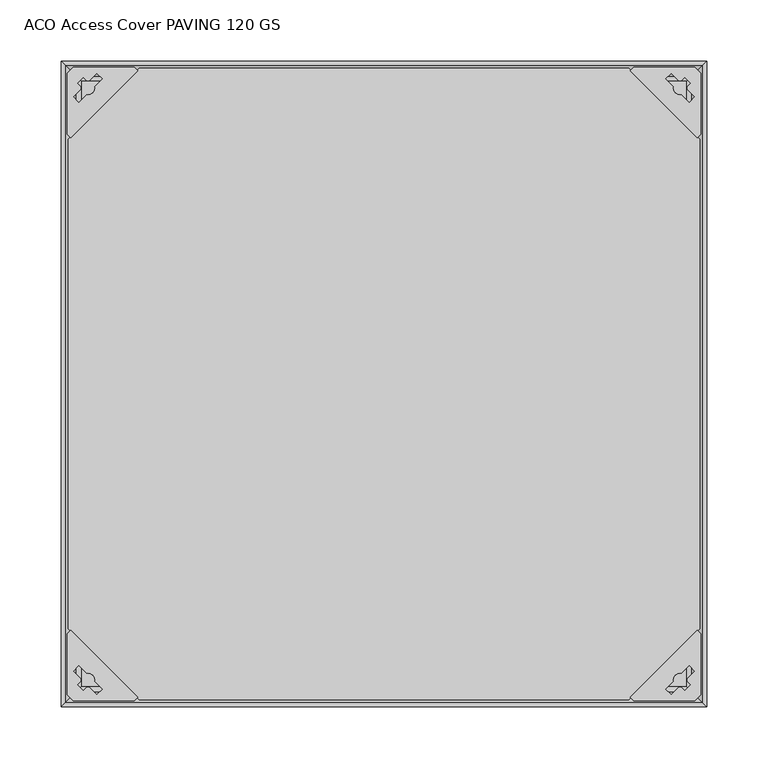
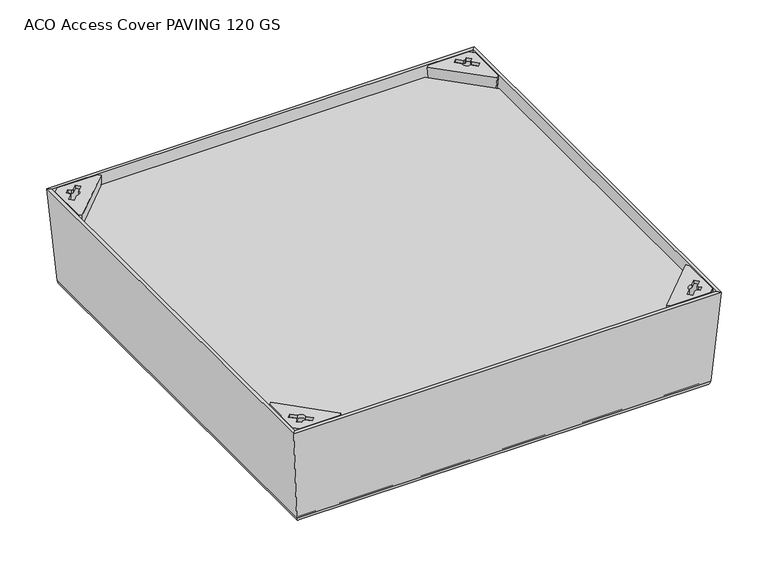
"""IFC4 building model written with IfcOpenShell, lengths in millimetres: proxy geometry, ACO Access Cover PAVING 120 GS : ACO Access Cover PAVING 120 400 x 400 C250 GS."""

from ifc_helpers import new_model, si_unit, frame, origin, place, context, project, spatial, polyline, circle_curve, ellipse_curve, source, transform, mapped, element, save
from ifc_brep_helpers import plane_surface, cylinder_surface, revolved_surface, advanced_brep


def aco_access_cover_paving_120_gs_7bec731e(model_context):
    return source(origin(), model_context, "Body", "AdvancedBrep", [
        advanced_brep(
        [(251.0478418, -207.9521582, -118.304766), (251.0478418, 207.9372685, -118.304766), (258.4201324, 200.5779653, -15.0), (258.4201324, -200.5798676, -15.0), (247.0575856, -211.9424144, -122.0257402), (247.0575856, 211.9204953, -122.0257402), (-207.9521582, -251.0478418, -118.304766), (207.9521582, -251.0478418, -118.304766), (200.5798676, -258.4201324, -15.0), (-200.5798676, -258.4201324, -15.0), (-211.9424144, -247.0575856, -122.0257402), (211.9424144, -247.0575856, -122.0257402), (-251.0478418, 207.9521494, -118.304766), (-251.0478418, -207.9521582, -118.304766), (-258.4201324, -200.5798676, -15.0), (-258.4201324, 200.5798587, -15.0), (-247.0575856, 211.9424056, -122.0257402), (-247.0575856, -211.9424144, -122.0257402), (-211.9424056, 247.0575856, -122.0257402), (211.8584869, 247.0575856, -122.0257402), (207.8611889, 251.0478418, -118.304766), (-207.9521494, 251.0478418, -118.304766), (-200.5798587, 258.4201324, -15.0), (200.4758879, 258.4201324, -15.0)],
        [
            (0, 1),
            (1, 2),
            (2, 3),
            (3, 0),
            (0, 4, ellipse_curve(frame((247.0575856, -211.9424144, -118.0257402), z_axis=(-0.7071067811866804, 0.7071067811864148, 0.0), x_axis=(0.7071067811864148, 0.7071067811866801, 0.0)), 5.6568542, 4.0)),
            (4, 5),
            (5, 1, ellipse_curve(frame((247.0575856, 211.9204953, -118.0257402), z_axis=(-0.7064831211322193, -0.707729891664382, 0.0), x_axis=(-0.707729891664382, 0.7064831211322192, 0.0)), 5.6518738, 4.0)),
            (6, 7),
            (7, 8),
            (8, 9),
            (9, 6),
            (6, 10, ellipse_curve(frame((-211.9424144, -247.0575856, -118.0257402), z_axis=(0.7071067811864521, 0.7071067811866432, 0.0), x_axis=(0.7071067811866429, -0.7071067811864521, 0.0)), 5.6568542, 4.0)),
            (10, 11),
            (11, 7, ellipse_curve(frame((211.9424144, -247.0575856, -118.0257402), z_axis=(-0.7071067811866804, 0.7071067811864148, 0.0), x_axis=(0.7071067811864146, 0.7071067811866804, 0.0)), 5.6568542, 4.0)),
            (12, 13),
            (13, 14),
            (14, 15),
            (15, 12),
            (12, 16, ellipse_curve(frame((-247.0575856, 211.9424056, -118.0257402), z_axis=(0.7071067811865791, -0.707106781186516, 0.0), x_axis=(-0.707106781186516, -0.7071067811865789, 0.0)), 5.6568542, 4.0)),
            (16, 17),
            (17, 13, ellipse_curve(frame((-247.0575856, -211.9424144, -118.0257402), z_axis=(0.7071067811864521, 0.7071067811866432, 0.0), x_axis=(0.7071067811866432, -0.7071067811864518, 0.0)), 5.6568542, 4.0)),
            (10, 17),
            (16, 18),
            (18, 19),
            (19, 5),
            (4, 11),
            (20, 21),
            (21, 22),
            (22, 23),
            (23, 20),
            (18, 21, ellipse_curve(frame((-211.9424056, 247.0575856, -118.0257402), z_axis=(0.7071067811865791, -0.707106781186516, 0.0), x_axis=(-0.7071067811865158, -0.7071067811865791, 0.0)), 5.6568542, 4.0)),
            (20, 19, ellipse_curve(frame((211.8584869, 247.0575856, -118.0257402), z_axis=(-0.7064831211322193, -0.707729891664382, 0.0), x_axis=(-0.7077298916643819, 0.7064831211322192, 0.0)), 5.6618479, 4.0)),
            (23, 2),
            (15, 22),
            (9, 14),
            (3, 8),
        ],
        [
            plane_surface(frame((259.4999911, 259.4999911, 0.1315999), z_axis=(0.9974632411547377, 0.0, -0.07118344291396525), x_axis=(0.0, -1.0, 0.0))),
            cylinder_surface(frame((247.0575856, 259.5, -118.0257402), z_axis=(0.0, 1.0, 0.0), x_axis=(1.0, 0.0, 0.0)), 4.0),
            plane_surface(frame((259.4999911, -259.4999911, 0.1315999), z_axis=(0.0, -0.997463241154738, -0.07118344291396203), x_axis=(-1.0, 0.0, 0.0))),
            cylinder_surface(frame((259.5, -247.0575856, -118.0257402), z_axis=(1.0, 0.0, 0.0), x_axis=(0.0, -1.0, 0.0)), 4.0),
            plane_surface(frame((-259.4999911, -259.4999911, 0.1315999), z_axis=(-0.9974632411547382, 0.0, -0.07118344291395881), x_axis=(0.0, 1.0, 0.0))),
            cylinder_surface(frame((-247.0575856, -259.5, -118.0257402), z_axis=(0.0, -1.0, 0.0), x_axis=(-1.0, 0.0, 0.0)), 4.0),
            plane_surface(frame((-247.0575856, 247.0575856, -122.0257402), z_axis=(0.0, 0.0, -1.0), x_axis=(1.0, 0.0, 0.0))),
            plane_surface(frame((-259.4999911, 259.4999911, 0.1315999), z_axis=(0.0, 0.997463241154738, -0.07118344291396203), x_axis=(1.0, 0.0, 0.0))),
            cylinder_surface(frame((-259.5, 247.0575856, -118.0257402), z_axis=(-1.0, 0.0, 0.0), x_axis=(0.0, 1.0, 0.0)), 4.0),
            plane_surface(frame((199.3941235, 259.4999911, 0.1315999), z_axis=(0.7064831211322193, 0.707729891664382, 0.0), x_axis=(0.0, 0.0, -1.0))),
            plane_surface(frame((-259.5, 199.4999911, 0.1315999), z_axis=(-0.7071067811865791, 0.707106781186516, 0.0), x_axis=(0.0, 0.0, -1.0))),
            plane_surface(frame((-199.5, -259.5, 0.1315999), z_axis=(-0.7071067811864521, -0.7071067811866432, 0.0), x_axis=(0.0, 0.0, -1.0))),
            plane_surface(frame((259.5, -199.5, 0.1315999), z_axis=(0.7071067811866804, -0.7071067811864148, 0.0), x_axis=(0.0, 0.0, -1.0))),
            plane_surface(frame((-469.5, 469.5, -15.0), z_axis=(0.0, 0.0, 1.0), x_axis=(1.0, 0.0, 0.0))),
        ],
        [
            (0, [[1, 2, 3, 4]]),
            (1, [[-1, 5, 6, 7]]),
            (2, [[8, 9, 10, 11]]),
            (3, [[-8, 12, 13, 14]]),
            (4, [[15, 16, 17, 18]]),
            (5, [[-15, 19, 20, 21]]),
            (6, [[-13, 22, -20, 23, 24, 25, -6, 26]]),
            (7, [[27, 28, 29, 30]]),
            (8, [[-24, 31, -27, 32]]),
            (9, [[-7, -25, -32, -30, 33, -2]]),
            (10, [[-19, -18, 34, -28, -31, -23]]),
            (11, [[-12, -11, 35, -16, -21, -22]]),
            (12, [[-5, -4, 36, -9, -14, -26]]),
            (13, [[-3, -33, -29, -34, -17, -35, -10, -36]]),
        ],
    ),
        advanced_brep(
        [(256.6741466, -201.6741466, -0.9943175), (201.6741466, -256.6741466, -0.9943175), (204.5, -259.5, -0.9943175), (254.5, -259.5, -0.9943175), (259.5, -254.5, -0.9943175), (259.5, -204.5, -0.9943175), (237.146772, -243.6283483, -0.9943175), (243.6283483, -237.146772, -0.9943175), (249.9654607, -230.8096596, -0.9943175), (254.2383518, -235.0825507, -0.9943175), (247.8694325, -241.45147, -0.9943175), (247.8534089, -243.6274897, -0.9943175), (250.6527499, -246.4268307, -0.9943175), (246.4203643, -250.6592163, -0.9943175), (243.6167976, -247.8556497, -0.9943175), (241.45147, -247.8694325, -0.9943175), (235.1697781, -254.1511244, -0.9943175), (230.896887, -249.8782333, -0.9943175), (216.2183936, -242.1298996, -120.9943175), (242.1298996, -216.2183936, -120.9943175), (244.955753, -219.044247, -120.9943175), (219.044247, -244.955753, -120.9943175), (250.3314062, -208.0168871, -109.3956357), (208.0168871, -250.3314062, -109.3956357), (204.9680932, -259.5, -4.9943175), (254.5, -259.5, -4.9943175), (259.5, -254.5, -4.9943175), (259.5, -204.9680932, -4.9943175), (237.146772, -243.6283483, -4.9943175), (243.6283483, -237.146772, -4.9943175), (249.9654607, -230.8096596, -4.9943175), (254.2383518, -235.0825507, -4.9943175), (247.8694325, -241.45147, -4.9943175), (247.8534089, -243.6274897, -4.9943175), (250.6527499, -246.4268307, -4.9943175), (246.4203643, -250.6592163, -4.9943175), (243.6167976, -247.8556497, -4.9943175), (241.45147, -247.8694325, -4.9943175), (235.1697781, -254.1511244, -4.9943175), (230.896887, -249.8782333, -4.9943175), (210.8427405, -253.1572595, -109.3956357), (204.7340466, -259.2659534, -4.9943175), (259.2659534, -204.7340466, -4.9943175), (253.1572595, -210.8427405, -109.3956357)],
        [
            (0, 1),
            (1, 2),
            (2, 3),
            (3, 4),
            (4, 5),
            (5, 0),
            (6, 7, circle_curve(frame((242.5, -242.5, -0.9943175), z_axis=(0.0, 0.0, -1.0), x_axis=(-1.0, 0.0, 0.0)), 5.4708519)),
            (7, 8),
            (8, 9),
            (9, 10),
            (10, 11, circle_curve(frame((242.5, -242.5, -0.9943175), z_axis=(0.0, 0.0, -1.0), x_axis=(-1.0, 0.0, 0.0)), 5.4708519)),
            (11, 12),
            (12, 13),
            (13, 14),
            (14, 15, circle_curve(frame((242.5, -242.5, -0.9943175), z_axis=(0.0, 0.0, -1.0), x_axis=(-1.0, 0.0, 0.0)), 5.4708519)),
            (15, 16),
            (16, 17),
            (17, 6),
            (18, 19),
            (19, 20),
            (20, 21),
            (21, 18),
            (0, 22),
            (22, 19),
            (18, 23),
            (23, 1),
            (2, 24),
            (24, 25),
            (25, 3),
            (25, 26),
            (26, 4),
            (26, 27),
            (27, 5),
            (6, 28),
            (28, 29, circle_curve(frame((242.5, -242.5, -4.9943175), z_axis=(0.0, 0.0, -1.0), x_axis=(-1.0, 0.0, 0.0)), 5.4708519)),
            (29, 7),
            (29, 30),
            (30, 8),
            (30, 31),
            (31, 9),
            (31, 32),
            (32, 10),
            (32, 33, circle_curve(frame((242.5, -242.5, -4.9943175), z_axis=(0.0, 0.0, -1.0), x_axis=(-1.0, 0.0, 0.0)), 5.4708519)),
            (33, 11),
            (33, 34),
            (34, 12),
            (34, 35),
            (35, 13),
            (35, 36),
            (36, 14),
            (36, 37, circle_curve(frame((242.5, -242.5, -4.9943175), z_axis=(0.0, 0.0, -1.0), x_axis=(-1.0, 0.0, 0.0)), 5.4708519)),
            (37, 15),
            (37, 38),
            (38, 16),
            (38, 39),
            (39, 17),
            (39, 28),
            (23, 40),
            (40, 41),
            (41, 24),
            (21, 40),
            (41, 42),
            (42, 27),
            (20, 43),
            (43, 42),
            (22, 43),
        ],
        [
            plane_surface(frame((259.5, -204.5, -0.9943175), z_axis=(0.0, 0.0, 1.0000000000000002), x_axis=(-0.7071067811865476, 0.7071067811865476, 0.0))),
            plane_surface(frame((259.5, -204.5, -120.9943175), z_axis=(0.0, 0.0, -1.0000000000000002), x_axis=(0.7071067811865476, -0.7071067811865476, 0.0))),
            plane_surface(frame((256.6741466, -201.6741466, -0.9943175), z_axis=(-0.7071067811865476, 0.7071067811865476, 0.0), x_axis=(0.0, 0.0, -1.0))),
            plane_surface(frame((204.5, -259.5, -0.9943175), z_axis=(0.0, -1.0, 0.0), x_axis=(0.0, 0.0, -1.0))),
            plane_surface(frame((254.5, -259.5, -0.9943175), z_axis=(0.7071067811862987, -0.7071067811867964, 0.0), x_axis=(0.0, 0.0, -1.0))),
            plane_surface(frame((259.5, -254.5, -0.9943175), z_axis=(1.0, 0.0, 0.0), x_axis=(0.0, 0.0, -1.0))),
            revolved_surface(polyline([(237.0291481, -242.5, -4.9943175), (237.0291481, -242.5, -0.9943175)]), (242.5, -242.5, 1.0056825), (0.0, 0.0, -1.0)),
            plane_surface(frame((243.6283483, -237.146772, -0.9943175), z_axis=(0.7071067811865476, -0.7071067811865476, 0.0), x_axis=(0.0, 0.0, -1.0))),
            plane_surface(frame((249.9654607, -230.8096596, -0.9943175), z_axis=(-0.7071067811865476, -0.7071067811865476, 0.0), x_axis=(0.0, 0.0, -1.0))),
            plane_surface(frame((254.2383518, -235.0825507, -0.9943175), z_axis=(-0.7071067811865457, 0.7071067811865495, 0.0), x_axis=(0.0, 0.0, -1.0))),
            plane_surface(frame((247.8534089, -243.6274897, -0.9943175), z_axis=(-0.7071067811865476, -0.7071067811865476, 0.0), x_axis=(0.0, 0.0, -1.0))),
            plane_surface(frame((250.6527499, -246.4268307, -0.9943175), z_axis=(-0.7071067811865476, 0.7071067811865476, 0.0), x_axis=(0.0, 0.0, -1.0))),
            plane_surface(frame((246.4203643, -250.6592163, -0.9943175), z_axis=(0.7071067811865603, 0.7071067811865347, 0.0), x_axis=(0.0, 0.0, -1.0))),
            plane_surface(frame((241.45147, -247.8694325, -0.9943175), z_axis=(-0.7071067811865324, 0.7071067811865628, 0.0), x_axis=(0.0, 0.0, -1.0))),
            plane_surface(frame((235.1697781, -254.1511244, -0.9943175), z_axis=(0.7071067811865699, 0.7071067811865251, 0.0), x_axis=(0.0, 0.0, -1.0))),
            plane_surface(frame((230.896887, -249.8782333, -0.9943175), z_axis=(0.7071067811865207, -0.7071067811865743, 0.0), x_axis=(0.0, 0.0, -1.0))),
            plane_surface(frame((235.8427405, -278.1572595, -109.3956357), z_axis=(-0.7046982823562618, -0.7046982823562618, -0.08246612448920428), x_axis=(-0.7071067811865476, 0.7071067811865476, 0.0))),
            plane_surface(frame((244.044247, -269.955753, -120.9943175), z_axis=(-0.5000000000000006, -0.5000000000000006, -0.707106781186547), x_axis=(-0.7071067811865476, 0.7071067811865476, 0.0))),
            plane_surface(frame((266.1329796, -264.5, -4.9943175), z_axis=(0.0, 0.0, -1.0), x_axis=(0.0, 1.0, 0.0))),
            plane_surface(frame((266.1329796, -197.8670204, -4.9943175), z_axis=(0.7071067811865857, -0.7071067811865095, 0.0), x_axis=(0.0, 0.0, -1.0))),
            plane_surface(frame((278.1572595, -235.8427405, -109.3956357), z_axis=(0.5000000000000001, 0.5000000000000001, -0.7071067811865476), x_axis=(-0.7071067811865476, 0.7071067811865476, 0.0))),
            plane_surface(frame((284.5, -229.5, -0.9943175), z_axis=(0.7046982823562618, 0.7046982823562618, -0.08246612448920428), x_axis=(-0.7071067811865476, 0.7071067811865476, 0.0))),
        ],
        [
            (0, [[1, 2, 3, 4, 5, 6], [7, 8, 9, 10, 11, 12, 13, 14, 15, 16, 17, 18]]),
            (1, [[19, 20, 21, 22]]),
            (2, [[-1, 23, 24, -19, 25, 26]]),
            (3, [[-3, 27, 28, 29]]),
            (4, [[-4, -29, 30, 31]]),
            (5, [[-5, -31, 32, 33]]),
            (6, [[-7, 34, 35, 36]]),
            (7, [[-8, -36, 37, 38]]),
            (8, [[-9, -38, 39, 40]]),
            (9, [[-10, -40, 41, 42]]),
            (6, [[-11, -42, 43, 44]]),
            (10, [[-12, -44, 45, 46]]),
            (11, [[-13, -46, 47, 48]]),
            (12, [[-14, -48, 49, 50]]),
            (6, [[-15, -50, 51, 52]]),
            (13, [[-16, -52, 53, 54]]),
            (14, [[-17, -54, 55, 56]]),
            (15, [[-18, -56, 57, -34]]),
            (16, [[-2, -26, 58, 59, 60, -27]]),
            (17, [[-25, -22, 61, -58]]),
            (18, [[62, 63, -32, -30, -28, -60], [-35, -57, -55, -53, -51, -49, -47, -45, -43, -41, -39, -37]]),
            (19, [[-62, -59, -61, -21, 64, 65]]),
            (20, [[-24, 66, -64, -20]]),
            (21, [[-6, -33, -63, -65, -66, -23]]),
        ],
    ),
        advanced_brep(
        [(-256.6741466, -201.6741466, -0.9992003), (-259.5, -204.5, -0.9992003), (-259.5, -254.5, -0.9992003), (-254.5, -259.5, -0.9992003), (-204.5, -259.5, -0.9992003), (-201.6741466, -256.6741466, -0.9992003), (-237.146772, -243.6283483, -0.9992003), (-230.896887, -249.8782333, -0.9992003), (-235.1697781, -254.1511244, -0.9992003), (-241.45147, -247.8694325, -0.9992003), (-243.6167976, -247.8556497, -0.9992003), (-246.4203643, -250.6592163, -0.9992003), (-250.6527499, -246.4268307, -0.9992003), (-247.8534089, -243.6274897, -0.9992003), (-247.8694325, -241.45147, -0.9992003), (-254.2383518, -235.0825507, -0.9992003), (-249.9654607, -230.8096596, -0.9992003), (-243.6283483, -237.146772, -0.9992003), (-216.2183936, -242.1298996, -120.9992003), (-219.044247, -244.955753, -120.9992003), (-244.955753, -219.044247, -120.9992003), (-242.1298996, -216.2183936, -120.9992003), (-208.0168871, -250.3314062, -109.4005185), (-250.3314062, -208.0168871, -109.4005185), (-254.5, -259.5, -4.9992003), (-204.9680932, -259.5, -4.9992003), (-259.5, -254.5, -4.9992003), (-259.5, -204.9680932, -4.9992003), (-243.6283483, -237.146772, -4.9992003), (-237.146772, -243.6283483, -4.9992003), (-249.9654607, -230.8096596, -4.9992003), (-254.2383518, -235.0825507, -4.9992003), (-247.8694325, -241.45147, -4.9992003), (-247.8534089, -243.6274897, -4.9992003), (-250.6527499, -246.4268307, -4.9992003), (-246.4203643, -250.6592163, -4.9992003), (-243.6167976, -247.8556497, -4.9992003), (-241.45147, -247.8694325, -4.9992003), (-235.1697781, -254.1511244, -4.9992003), (-230.896887, -249.8782333, -4.9992003), (-204.7340466, -259.2659534, -4.9992003), (-210.8427405, -253.1572595, -109.4005185), (-259.2659534, -204.7340466, -4.9992003), (-253.1572595, -210.8427405, -109.4005185)],
        [
            (0, 1),
            (1, 2),
            (2, 3),
            (3, 4),
            (4, 5),
            (5, 0),
            (6, 7),
            (7, 8),
            (8, 9),
            (9, 10, circle_curve(frame((-242.5, -242.5, -0.9992003), z_axis=(0.0, 0.0, -1.0), x_axis=(1.0, 0.0, 0.0)), 5.4708519)),
            (10, 11),
            (11, 12),
            (12, 13),
            (13, 14, circle_curve(frame((-242.5, -242.5, -0.9992003), z_axis=(0.0, 0.0, -1.0), x_axis=(1.0, 0.0, 0.0)), 5.4708519)),
            (14, 15),
            (15, 16),
            (16, 17),
            (17, 6, circle_curve(frame((-242.5, -242.5, -0.9992003), z_axis=(0.0, 0.0, -1.0), x_axis=(1.0, 0.0, 0.0)), 5.4708519)),
            (18, 19),
            (19, 20),
            (20, 21),
            (21, 18),
            (5, 22),
            (22, 18),
            (21, 23),
            (23, 0),
            (3, 24),
            (24, 25),
            (25, 4),
            (2, 26),
            (26, 24),
            (1, 27),
            (27, 26),
            (17, 28),
            (28, 29, circle_curve(frame((-242.5, -242.5, -4.9992003), z_axis=(0.0, 0.0, -1.0), x_axis=(1.0, 0.0, 0.0)), 5.4708519)),
            (29, 6),
            (16, 30),
            (30, 28),
            (15, 31),
            (31, 30),
            (14, 32),
            (32, 31),
            (13, 33),
            (33, 32, circle_curve(frame((-242.5, -242.5, -4.9992003), z_axis=(0.0, 0.0, -1.0), x_axis=(1.0, 0.0, 0.0)), 5.4708519)),
            (12, 34),
            (34, 33),
            (11, 35),
            (35, 34),
            (10, 36),
            (36, 35),
            (9, 37),
            (37, 36, circle_curve(frame((-242.5, -242.5, -4.9992003), z_axis=(0.0, 0.0, -1.0), x_axis=(1.0, 0.0, 0.0)), 5.4708519)),
            (8, 38),
            (38, 37),
            (7, 39),
            (39, 38),
            (29, 39),
            (25, 40),
            (40, 41),
            (41, 22),
            (41, 19),
            (27, 42),
            (42, 40),
            (42, 43),
            (43, 20),
            (43, 23),
        ],
        [
            plane_surface(frame((-259.5, -204.5, -0.9992003), z_axis=(0.0, 0.0, 1.0000000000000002), x_axis=(0.7071067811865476, 0.7071067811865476, 0.0))),
            plane_surface(frame((-259.5, -204.5, -120.9992003), z_axis=(0.0, 0.0, -1.0000000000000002), x_axis=(-0.7071067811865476, -0.7071067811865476, 0.0))),
            plane_surface(frame((-256.6741466, -201.6741466, -0.9992003), z_axis=(0.7071067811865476, 0.7071067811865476, 0.0), x_axis=(0.0, 0.0, -1.0))),
            plane_surface(frame((-204.5, -259.5, -0.9992003), z_axis=(0.0, -1.0, 0.0), x_axis=(0.0, 0.0, -1.0))),
            plane_surface(frame((-254.5, -259.5, -0.9992003), z_axis=(-0.7071067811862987, -0.7071067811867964, 0.0), x_axis=(0.0, 0.0, -1.0))),
            plane_surface(frame((-259.5, -254.5, -0.9992003), z_axis=(-1.0, 0.0, 0.0), x_axis=(0.0, 0.0, -1.0))),
            revolved_surface(polyline([(-237.0291481, -242.5, -4.9992003), (-237.0291481, -242.5, -0.9992003)]), (-242.5, -242.5, 1.0007997), (0.0, 0.0, -1.0)),
            plane_surface(frame((-243.6283483, -237.146772, -0.9992003), z_axis=(-0.7071067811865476, -0.7071067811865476, 0.0), x_axis=(0.0, 0.0, -1.0))),
            plane_surface(frame((-249.9654607, -230.8096596, -0.9992003), z_axis=(0.7071067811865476, -0.7071067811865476, 0.0), x_axis=(0.0, 0.0, -1.0))),
            plane_surface(frame((-254.2383518, -235.0825507, -0.9992003), z_axis=(0.7071067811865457, 0.7071067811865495, 0.0), x_axis=(0.0, 0.0, -1.0))),
            plane_surface(frame((-247.8534089, -243.6274897, -0.9992003), z_axis=(0.7071067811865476, -0.7071067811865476, 0.0), x_axis=(0.0, 0.0, -1.0))),
            plane_surface(frame((-250.6527499, -246.4268307, -0.9992003), z_axis=(0.7071067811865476, 0.7071067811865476, 0.0), x_axis=(0.0, 0.0, -1.0))),
            plane_surface(frame((-246.4203643, -250.6592163, -0.9992003), z_axis=(-0.7071067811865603, 0.7071067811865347, 0.0), x_axis=(0.0, 0.0, -1.0))),
            plane_surface(frame((-241.45147, -247.8694325, -0.9992003), z_axis=(0.7071067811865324, 0.7071067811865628, 0.0), x_axis=(0.0, 0.0, -1.0))),
            plane_surface(frame((-235.1697781, -254.1511244, -0.9992003), z_axis=(-0.7071067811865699, 0.7071067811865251, 0.0), x_axis=(0.0, 0.0, -1.0))),
            plane_surface(frame((-230.896887, -249.8782333, -0.9992003), z_axis=(-0.7071067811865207, -0.7071067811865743, 0.0), x_axis=(0.0, 0.0, -1.0))),
            plane_surface(frame((-235.8427405, -278.1572595, -109.4005185), z_axis=(0.7046982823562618, -0.7046982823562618, -0.08246612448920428), x_axis=(0.7071067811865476, 0.7071067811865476, 0.0))),
            plane_surface(frame((-244.044247, -269.955753, -120.9992003), z_axis=(0.5000000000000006, -0.5000000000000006, -0.707106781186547), x_axis=(0.7071067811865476, 0.7071067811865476, 0.0))),
            plane_surface(frame((-266.1329796, -264.5, -4.9992003), z_axis=(0.0, 0.0, -1.0), x_axis=(0.0, 1.0, 0.0))),
            plane_surface(frame((-266.1329796, -197.8670204, -4.9992003), z_axis=(-0.7071067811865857, -0.7071067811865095, 0.0), x_axis=(0.0, 0.0, -1.0))),
            plane_surface(frame((-278.1572595, -235.8427405, -109.4005185), z_axis=(-0.5000000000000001, 0.5000000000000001, -0.7071067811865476), x_axis=(0.7071067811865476, 0.7071067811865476, 0.0))),
            plane_surface(frame((-284.5, -229.5, -0.9992003), z_axis=(-0.7046982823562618, 0.7046982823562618, -0.08246612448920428), x_axis=(0.7071067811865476, 0.7071067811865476, 0.0))),
        ],
        [
            (0, [[1, 2, 3, 4, 5, 6], [7, 8, 9, 10, 11, 12, 13, 14, 15, 16, 17, 18]]),
            (1, [[19, 20, 21, 22]]),
            (2, [[23, 24, -22, 25, 26, -6]]),
            (3, [[27, 28, 29, -4]]),
            (4, [[30, 31, -27, -3]]),
            (5, [[32, 33, -30, -2]]),
            (6, [[34, 35, 36, -18]]),
            (7, [[37, 38, -34, -17]]),
            (8, [[39, 40, -37, -16]]),
            (9, [[41, 42, -39, -15]]),
            (6, [[43, 44, -41, -14]]),
            (10, [[45, 46, -43, -13]]),
            (11, [[47, 48, -45, -12]]),
            (12, [[49, 50, -47, -11]]),
            (6, [[51, 52, -49, -10]]),
            (13, [[53, 54, -51, -9]]),
            (14, [[55, 56, -53, -8]]),
            (15, [[-36, 57, -55, -7]]),
            (16, [[-29, 58, 59, 60, -23, -5]]),
            (17, [[-60, 61, -19, -24]]),
            (18, [[-58, -28, -31, -33, 62, 63], [-38, -40, -42, -44, -46, -48, -50, -52, -54, -56, -57, -35]]),
            (19, [[64, 65, -20, -61, -59, -63]]),
            (20, [[-21, -65, 66, -25]]),
            (21, [[-26, -66, -64, -62, -32, -1]]),
        ],
    ),
        advanced_brep(
        [(256.6741466, 201.6741466, -0.9992003), (259.5, 204.5, -0.9992003), (259.5, 254.5, -0.9992003), (254.5, 259.5, -0.9992003), (204.5, 259.5, -0.9992003), (201.6741466, 256.6741466, -0.9992003), (237.146772, 243.6283483, -0.9992003), (230.896887, 249.8782333, -0.9992003), (235.1697781, 254.1511244, -0.9992003), (241.45147, 247.8694325, -0.9992003), (243.6167976, 247.8556497, -0.9992003), (246.4203643, 250.6592163, -0.9992003), (250.6527499, 246.4268307, -0.9992003), (247.8534089, 243.6274897, -0.9992003), (247.8694325, 241.45147, -0.9992003), (254.2383518, 235.0825507, -0.9992003), (249.9654607, 230.8096596, -0.9992003), (243.6283483, 237.146772, -0.9992003), (216.2183936, 242.1298996, -120.9992003), (219.044247, 244.955753, -120.9992003), (244.955753, 219.044247, -120.9992003), (242.1298996, 216.2183936, -120.9992003), (208.0168871, 250.3314062, -109.4005185), (250.3314062, 208.0168871, -109.4005185), (254.5, 259.5, -4.9992003), (204.9680932, 259.5, -4.9992003), (259.5, 254.5, -4.9992003), (259.5, 204.9680932, -4.9992003), (243.6283483, 237.146772, -4.9992003), (237.146772, 243.6283483, -4.9992003), (249.9654607, 230.8096596, -4.9992003), (254.2383518, 235.0825507, -4.9992003), (247.8694325, 241.45147, -4.9992003), (247.8534089, 243.6274897, -4.9992003), (250.6527499, 246.4268307, -4.9992003), (246.4203643, 250.6592163, -4.9992003), (243.6167976, 247.8556497, -4.9992003), (241.45147, 247.8694325, -4.9992003), (235.1697781, 254.1511244, -4.9992003), (230.896887, 249.8782333, -4.9992003), (204.7340466, 259.2659534, -4.9992003), (210.8427405, 253.1572595, -109.4005185), (259.2659534, 204.7340466, -4.9992003), (253.1572595, 210.8427405, -109.4005185)],
        [
            (0, 1),
            (1, 2),
            (2, 3),
            (3, 4),
            (4, 5),
            (5, 0),
            (6, 7),
            (7, 8),
            (8, 9),
            (9, 10, circle_curve(frame((242.5, 242.5, -0.9992003), z_axis=(0.0, 0.0, -1.0), x_axis=(-1.0, 0.0, 0.0)), 5.4708519)),
            (10, 11),
            (11, 12),
            (12, 13),
            (13, 14, circle_curve(frame((242.5, 242.5, -0.9992003), z_axis=(0.0, 0.0, -1.0), x_axis=(-1.0, 0.0, 0.0)), 5.4708519)),
            (14, 15),
            (15, 16),
            (16, 17),
            (17, 6, circle_curve(frame((242.5, 242.5, -0.9992003), z_axis=(0.0, 0.0, -1.0), x_axis=(-1.0, 0.0, 0.0)), 5.4708519)),
            (18, 19),
            (19, 20),
            (20, 21),
            (21, 18),
            (5, 22),
            (22, 18),
            (21, 23),
            (23, 0),
            (3, 24),
            (24, 25),
            (25, 4),
            (2, 26),
            (26, 24),
            (1, 27),
            (27, 26),
            (17, 28),
            (28, 29, circle_curve(frame((242.5, 242.5, -4.9992003), z_axis=(0.0, 0.0, -1.0), x_axis=(-1.0, 0.0, 0.0)), 5.4708519)),
            (29, 6),
            (16, 30),
            (30, 28),
            (15, 31),
            (31, 30),
            (14, 32),
            (32, 31),
            (13, 33),
            (33, 32, circle_curve(frame((242.5, 242.5, -4.9992003), z_axis=(0.0, 0.0, -1.0), x_axis=(-1.0, 0.0, 0.0)), 5.4708519)),
            (12, 34),
            (34, 33),
            (11, 35),
            (35, 34),
            (10, 36),
            (36, 35),
            (9, 37),
            (37, 36, circle_curve(frame((242.5, 242.5, -4.9992003), z_axis=(0.0, 0.0, -1.0), x_axis=(-1.0, 0.0, 0.0)), 5.4708519)),
            (8, 38),
            (38, 37),
            (7, 39),
            (39, 38),
            (29, 39),
            (25, 40),
            (40, 41),
            (41, 22),
            (41, 19),
            (27, 42),
            (42, 40),
            (42, 43),
            (43, 20),
            (43, 23),
        ],
        [
            plane_surface(frame((259.5, 204.5, -0.9992003), z_axis=(0.0, 0.0, 1.0000000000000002), x_axis=(-0.7071067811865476, -0.7071067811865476, 0.0))),
            plane_surface(frame((259.5, 204.5, -120.9992003), z_axis=(0.0, 0.0, -1.0000000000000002), x_axis=(0.7071067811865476, 0.7071067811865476, 0.0))),
            plane_surface(frame((256.6741466, 201.6741466, -0.9992003), z_axis=(-0.7071067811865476, -0.7071067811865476, 0.0), x_axis=(0.0, 0.0, -1.0))),
            plane_surface(frame((204.5, 259.5, -0.9992003), z_axis=(0.0, 1.0, 0.0), x_axis=(0.0, 0.0, -1.0))),
            plane_surface(frame((254.5, 259.5, -0.9992003), z_axis=(0.7071067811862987, 0.7071067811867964, 0.0), x_axis=(0.0, 0.0, -1.0))),
            plane_surface(frame((259.5, 254.5, -0.9992003), z_axis=(1.0, 0.0, 0.0), x_axis=(0.0, 0.0, -1.0))),
            revolved_surface(polyline([(237.0291481, 242.5, -4.9992003), (237.0291481, 242.5, -0.9992003)]), (242.5, 242.5, 1.0007997), (0.0, 0.0, -1.0)),
            plane_surface(frame((243.6283483, 237.146772, -0.9992003), z_axis=(0.7071067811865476, 0.7071067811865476, 0.0), x_axis=(0.0, 0.0, -1.0))),
            plane_surface(frame((249.9654607, 230.8096596, -0.9992003), z_axis=(-0.7071067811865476, 0.7071067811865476, 0.0), x_axis=(0.0, 0.0, -1.0))),
            plane_surface(frame((254.2383518, 235.0825507, -0.9992003), z_axis=(-0.7071067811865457, -0.7071067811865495, 0.0), x_axis=(0.0, 0.0, -1.0))),
            plane_surface(frame((247.8534089, 243.6274897, -0.9992003), z_axis=(-0.7071067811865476, 0.7071067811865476, 0.0), x_axis=(0.0, 0.0, -1.0))),
            plane_surface(frame((250.6527499, 246.4268307, -0.9992003), z_axis=(-0.7071067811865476, -0.7071067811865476, 0.0), x_axis=(0.0, 0.0, -1.0))),
            plane_surface(frame((246.4203643, 250.6592163, -0.9992003), z_axis=(0.7071067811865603, -0.7071067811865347, 0.0), x_axis=(0.0, 0.0, -1.0))),
            plane_surface(frame((241.45147, 247.8694325, -0.9992003), z_axis=(-0.7071067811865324, -0.7071067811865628, 0.0), x_axis=(0.0, 0.0, -1.0))),
            plane_surface(frame((235.1697781, 254.1511244, -0.9992003), z_axis=(0.7071067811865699, -0.7071067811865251, 0.0), x_axis=(0.0, 0.0, -1.0))),
            plane_surface(frame((230.896887, 249.8782333, -0.9992003), z_axis=(0.7071067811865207, 0.7071067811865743, 0.0), x_axis=(0.0, 0.0, -1.0))),
            plane_surface(frame((235.8427405, 278.1572595, -109.4005185), z_axis=(-0.7046982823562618, 0.7046982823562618, -0.08246612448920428), x_axis=(-0.7071067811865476, -0.7071067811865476, 0.0))),
            plane_surface(frame((244.044247, 269.955753, -120.9992003), z_axis=(-0.5000000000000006, 0.5000000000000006, -0.707106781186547), x_axis=(-0.7071067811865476, -0.7071067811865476, 0.0))),
            plane_surface(frame((266.1329796, 264.5, -4.9992003), z_axis=(0.0, 0.0, -1.0), x_axis=(0.0, -1.0, 0.0))),
            plane_surface(frame((266.1329796, 197.8670204, -4.9992003), z_axis=(0.7071067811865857, 0.7071067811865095, 0.0), x_axis=(0.0, 0.0, -1.0))),
            plane_surface(frame((278.1572595, 235.8427405, -109.4005185), z_axis=(0.5000000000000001, -0.5000000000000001, -0.7071067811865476), x_axis=(-0.7071067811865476, -0.7071067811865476, 0.0))),
            plane_surface(frame((284.5, 229.5, -0.9992003), z_axis=(0.7046982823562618, -0.7046982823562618, -0.08246612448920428), x_axis=(-0.7071067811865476, -0.7071067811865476, 0.0))),
        ],
        [
            (0, [[1, 2, 3, 4, 5, 6], [7, 8, 9, 10, 11, 12, 13, 14, 15, 16, 17, 18]]),
            (1, [[19, 20, 21, 22]]),
            (2, [[23, 24, -22, 25, 26, -6]]),
            (3, [[27, 28, 29, -4]]),
            (4, [[30, 31, -27, -3]]),
            (5, [[32, 33, -30, -2]]),
            (6, [[34, 35, 36, -18]]),
            (7, [[37, 38, -34, -17]]),
            (8, [[39, 40, -37, -16]]),
            (9, [[41, 42, -39, -15]]),
            (6, [[43, 44, -41, -14]]),
            (10, [[45, 46, -43, -13]]),
            (11, [[47, 48, -45, -12]]),
            (12, [[49, 50, -47, -11]]),
            (6, [[51, 52, -49, -10]]),
            (13, [[53, 54, -51, -9]]),
            (14, [[55, 56, -53, -8]]),
            (15, [[-36, 57, -55, -7]]),
            (16, [[-29, 58, 59, 60, -23, -5]]),
            (17, [[-60, 61, -19, -24]]),
            (18, [[-58, -28, -31, -33, 62, 63], [-38, -40, -42, -44, -46, -48, -50, -52, -54, -56, -57, -35]]),
            (19, [[64, 65, -20, -61, -59, -63]]),
            (20, [[-21, -65, 66, -25]]),
            (21, [[-26, -66, -64, -62, -32, -1]]),
        ],
    ),
        advanced_brep(
        [(-256.6741466, 201.6741466, -0.9998106), (-201.6741466, 256.6741466, -0.9998106), (-204.5, 259.5, -0.9998106), (-254.5, 259.5, -0.9998106), (-259.5, 254.5, -0.9998106), (-259.5, 204.5, -0.9998106), (-237.146772, 243.6283483, -0.9998106), (-243.6283483, 237.146772, -0.9998106), (-249.9654607, 230.8096596, -0.9998106), (-254.2383518, 235.0825507, -0.9998106), (-247.8694325, 241.45147, -0.9998106), (-247.8534089, 243.6274897, -0.9998106), (-250.6527499, 246.4268307, -0.9998106), (-246.4203643, 250.6592163, -0.9998106), (-243.6167976, 247.8556497, -0.9998106), (-241.45147, 247.8694325, -0.9998106), (-235.1697781, 254.1511244, -0.9998106), (-230.896887, 249.8782333, -0.9998106), (-216.2183936, 242.1298996, -120.9998106), (-242.1298996, 216.2183936, -120.9998106), (-244.955753, 219.044247, -120.9998106), (-219.044247, 244.955753, -120.9998106), (-250.3314062, 208.0168871, -109.4011289), (-208.0168871, 250.3314062, -109.4011289), (-204.9680932, 259.5, -4.9998106), (-254.5, 259.5, -4.9998106), (-259.5, 254.5, -4.9998106), (-259.5, 204.9680932, -4.9998106), (-237.146772, 243.6283483, -4.9998106), (-243.6283483, 237.146772, -4.9998106), (-249.9654607, 230.8096596, -4.9998106), (-254.2383518, 235.0825507, -4.9998106), (-247.8694325, 241.45147, -4.9998106), (-247.8534089, 243.6274897, -4.9998106), (-250.6527499, 246.4268307, -4.9998106), (-246.4203643, 250.6592163, -4.9998106), (-243.6167976, 247.8556497, -4.9998106), (-241.45147, 247.8694325, -4.9998106), (-235.1697781, 254.1511244, -4.9998106), (-230.896887, 249.8782333, -4.9998106), (-210.8427405, 253.1572595, -109.4011289), (-204.7340466, 259.2659534, -4.9998106), (-259.2659534, 204.7340466, -4.9998106), (-253.1572595, 210.8427405, -109.4011289)],
        [
            (0, 1),
            (1, 2),
            (2, 3),
            (3, 4),
            (4, 5),
            (5, 0),
            (6, 7, circle_curve(frame((-242.5, 242.5, -0.9998106), z_axis=(0.0, 0.0, -1.0), x_axis=(1.0, 0.0, 0.0)), 5.4708519)),
            (7, 8),
            (8, 9),
            (9, 10),
            (10, 11, circle_curve(frame((-242.5, 242.5, -0.9998106), z_axis=(0.0, 0.0, -1.0), x_axis=(1.0, 0.0, 0.0)), 5.4708519)),
            (11, 12),
            (12, 13),
            (13, 14),
            (14, 15, circle_curve(frame((-242.5, 242.5, -0.9998106), z_axis=(0.0, 0.0, -1.0), x_axis=(1.0, 0.0, 0.0)), 5.4708519)),
            (15, 16),
            (16, 17),
            (17, 6),
            (18, 19),
            (19, 20),
            (20, 21),
            (21, 18),
            (0, 22),
            (22, 19),
            (18, 23),
            (23, 1),
            (2, 24),
            (24, 25),
            (25, 3),
            (25, 26),
            (26, 4),
            (26, 27),
            (27, 5),
            (6, 28),
            (28, 29, circle_curve(frame((-242.5, 242.5, -4.9998106), z_axis=(0.0, 0.0, -1.0), x_axis=(1.0, 0.0, 0.0)), 5.4708519)),
            (29, 7),
            (29, 30),
            (30, 8),
            (30, 31),
            (31, 9),
            (31, 32),
            (32, 10),
            (32, 33, circle_curve(frame((-242.5, 242.5, -4.9998106), z_axis=(0.0, 0.0, -1.0), x_axis=(1.0, 0.0, 0.0)), 5.4708519)),
            (33, 11),
            (33, 34),
            (34, 12),
            (34, 35),
            (35, 13),
            (35, 36),
            (36, 14),
            (36, 37, circle_curve(frame((-242.5, 242.5, -4.9998106), z_axis=(0.0, 0.0, -1.0), x_axis=(1.0, 0.0, 0.0)), 5.4708519)),
            (37, 15),
            (37, 38),
            (38, 16),
            (38, 39),
            (39, 17),
            (39, 28),
            (23, 40),
            (40, 41),
            (41, 24),
            (21, 40),
            (41, 42),
            (42, 27),
            (20, 43),
            (43, 42),
            (22, 43),
        ],
        [
            plane_surface(frame((-259.5, 204.5, -0.9998106), z_axis=(0.0, 0.0, 1.0000000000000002), x_axis=(0.7071067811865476, -0.7071067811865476, 0.0))),
            plane_surface(frame((-259.5, 204.5, -120.9998106), z_axis=(0.0, 0.0, -1.0000000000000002), x_axis=(-0.7071067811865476, 0.7071067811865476, 0.0))),
            plane_surface(frame((-256.6741466, 201.6741466, -0.9998106), z_axis=(0.7071067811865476, -0.7071067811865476, 0.0), x_axis=(0.0, 0.0, -1.0))),
            plane_surface(frame((-204.5, 259.5, -0.9998106), z_axis=(0.0, 1.0, 0.0), x_axis=(0.0, 0.0, -1.0))),
            plane_surface(frame((-254.5, 259.5, -0.9998106), z_axis=(-0.7071067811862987, 0.7071067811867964, 0.0), x_axis=(0.0, 0.0, -1.0))),
            plane_surface(frame((-259.5, 254.5, -0.9998106), z_axis=(-1.0, 0.0, 0.0), x_axis=(0.0, 0.0, -1.0))),
            revolved_surface(polyline([(-237.0291481, 242.5, -4.9998106), (-237.0291481, 242.5, -0.9998106)]), (-242.5, 242.5, 1.0001894), (0.0, 0.0, -1.0)),
            plane_surface(frame((-243.6283483, 237.146772, -0.9998106), z_axis=(-0.7071067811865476, 0.7071067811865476, 0.0), x_axis=(0.0, 0.0, -1.0))),
            plane_surface(frame((-249.9654607, 230.8096596, -0.9998106), z_axis=(0.7071067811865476, 0.7071067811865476, 0.0), x_axis=(0.0, 0.0, -1.0))),
            plane_surface(frame((-254.2383518, 235.0825507, -0.9998106), z_axis=(0.7071067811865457, -0.7071067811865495, 0.0), x_axis=(0.0, 0.0, -1.0))),
            plane_surface(frame((-247.8534089, 243.6274897, -0.9998106), z_axis=(0.7071067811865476, 0.7071067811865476, 0.0), x_axis=(0.0, 0.0, -1.0))),
            plane_surface(frame((-250.6527499, 246.4268307, -0.9998106), z_axis=(0.7071067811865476, -0.7071067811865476, 0.0), x_axis=(0.0, 0.0, -1.0))),
            plane_surface(frame((-246.4203643, 250.6592163, -0.9998106), z_axis=(-0.7071067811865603, -0.7071067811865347, 0.0), x_axis=(0.0, 0.0, -1.0))),
            plane_surface(frame((-241.45147, 247.8694325, -0.9998106), z_axis=(0.7071067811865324, -0.7071067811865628, 0.0), x_axis=(0.0, 0.0, -1.0))),
            plane_surface(frame((-235.1697781, 254.1511244, -0.9998106), z_axis=(-0.7071067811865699, -0.7071067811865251, 0.0), x_axis=(0.0, 0.0, -1.0))),
            plane_surface(frame((-230.896887, 249.8782333, -0.9998106), z_axis=(-0.7071067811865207, 0.7071067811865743, 0.0), x_axis=(0.0, 0.0, -1.0))),
            plane_surface(frame((-235.8427405, 278.1572595, -109.4011289), z_axis=(0.7046982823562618, 0.7046982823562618, -0.08246612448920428), x_axis=(0.7071067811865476, -0.7071067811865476, 0.0))),
            plane_surface(frame((-244.044247, 269.955753, -120.9998106), z_axis=(0.5000000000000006, 0.5000000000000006, -0.707106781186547), x_axis=(0.7071067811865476, -0.7071067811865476, 0.0))),
            plane_surface(frame((-266.1329796, 264.5, -4.9998106), z_axis=(0.0, 0.0, -1.0), x_axis=(0.0, -1.0, 0.0))),
            plane_surface(frame((-266.1329796, 197.8670204, -4.9998106), z_axis=(-0.7071067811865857, 0.7071067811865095, 0.0), x_axis=(0.0, 0.0, -1.0))),
            plane_surface(frame((-278.1572595, 235.8427405, -109.4011289), z_axis=(-0.5000000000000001, -0.5000000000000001, -0.7071067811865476), x_axis=(0.7071067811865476, -0.7071067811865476, 0.0))),
            plane_surface(frame((-284.5, 229.5, -0.9998106), z_axis=(-0.7046982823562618, -0.7046982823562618, -0.08246612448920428), x_axis=(0.7071067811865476, -0.7071067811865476, 0.0))),
        ],
        [
            (0, [[1, 2, 3, 4, 5, 6], [7, 8, 9, 10, 11, 12, 13, 14, 15, 16, 17, 18]]),
            (1, [[19, 20, 21, 22]]),
            (2, [[-1, 23, 24, -19, 25, 26]]),
            (3, [[-3, 27, 28, 29]]),
            (4, [[-4, -29, 30, 31]]),
            (5, [[-5, -31, 32, 33]]),
            (6, [[-7, 34, 35, 36]]),
            (7, [[-8, -36, 37, 38]]),
            (8, [[-9, -38, 39, 40]]),
            (9, [[-10, -40, 41, 42]]),
            (6, [[-11, -42, 43, 44]]),
            (10, [[-12, -44, 45, 46]]),
            (11, [[-13, -46, 47, 48]]),
            (12, [[-14, -48, 49, 50]]),
            (6, [[-15, -50, 51, 52]]),
            (13, [[-16, -52, 53, 54]]),
            (14, [[-17, -54, 55, 56]]),
            (15, [[-18, -56, 57, -34]]),
            (16, [[-2, -26, 58, 59, 60, -27]]),
            (17, [[-25, -22, 61, -58]]),
            (18, [[62, 63, -32, -30, -28, -60], [-35, -57, -55, -53, -51, -49, -47, -45, -43, -41, -39, -37]]),
            (19, [[-62, -59, -61, -21, 64, 65]]),
            (20, [[-24, 66, -64, -20]]),
            (21, [[-6, -33, -63, -65, -66, -23]]),
        ],
    ),
        advanced_brep(
        [(248.0674859, 248.0674859, -127.1573879), (256.0479983, 256.0479983, -119.7154397), (256.0479983, -256.0479983, -119.7154397), (248.0674859, -248.0674859, -127.1573879), (252.0577421, 252.0577421, -119.4364138), (248.0674859, 248.0674859, -123.1573879), (248.0674859, -248.0674859, -123.1573879), (252.0577421, -252.0577421, -119.4364138), (260.5098949, -260.5098949, -1.0), (260.5098949, 260.5098949, -1.0), (264.5001511, -264.5001511, -1.2790259), (264.5001511, 264.5001511, -1.2790259), (-256.0479983, -256.0479983, -119.7154397), (-248.0674859, -248.0674859, -127.1573879), (-248.0674859, -248.0674859, -123.1573879), (-252.0577421, -252.0577421, -119.4364138), (-260.5098949, -260.5098949, -1.0), (-264.5001511, -264.5001511, -1.2790259), (-256.0479983, 256.0479983, -119.7154397), (-248.0674859, 248.0674859, -127.1573879), (-248.0674859, 248.0674859, -123.1573879), (-252.0577421, 252.0577421, -119.4364138), (-260.5098949, 260.5098949, -1.0), (-264.5001511, 264.5001511, -1.2790259)],
        [
            (0, 1, ellipse_curve(frame((248.0674859, 248.0674859, -119.1573879), z_axis=(0.7071067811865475, -0.7071067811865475, 0.0), x_axis=(0.7071067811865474, 0.7071067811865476, 0.0)), 11.3137085, 8.0)),
            (1, 2),
            (2, 3, ellipse_curve(frame((248.0674859, -248.0674859, -119.1573879), z_axis=(0.7071067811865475, 0.7071067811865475, 0.0), x_axis=(-0.7071067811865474, 0.7071067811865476, 0.0)), 11.3137085, 8.0)),
            (3, 0),
            (4, 5, ellipse_curve(frame((248.0674859, 248.0674859, -119.1573879), z_axis=(-0.7071067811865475, 0.7071067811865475, 0.0), x_axis=(-0.7071067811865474, -0.7071067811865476, 0.0)), 5.6568542, 4.0)),
            (5, 6),
            (6, 7, ellipse_curve(frame((248.0674859, -248.0674859, -119.1573879), z_axis=(-0.7071067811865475, -0.7071067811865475, 0.0), x_axis=(0.7071067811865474, -0.7071067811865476, 0.0)), 5.6568542, 4.0)),
            (7, 4),
            (7, 8),
            (8, 9),
            (9, 4),
            (8, 10),
            (10, 11),
            (11, 9),
            (1, 11),
            (10, 2),
            (2, 12),
            (12, 13, ellipse_curve(frame((-248.0674859, -248.0674859, -119.1573879), z_axis=(0.7071067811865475, -0.7071067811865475, 0.0), x_axis=(0.7071067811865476, 0.7071067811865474, 0.0)), 11.3137085, 8.0)),
            (13, 3),
            (6, 14),
            (14, 15, ellipse_curve(frame((-248.0674859, -248.0674859, -119.1573879), z_axis=(-0.7071067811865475, 0.7071067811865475, 0.0), x_axis=(-0.7071067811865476, -0.7071067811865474, 0.0)), 5.6568542, 4.0)),
            (15, 7),
            (15, 16),
            (16, 8),
            (16, 17),
            (17, 10),
            (17, 12),
            (12, 18),
            (18, 19, ellipse_curve(frame((-248.0674859, 248.0674859, -119.1573879), z_axis=(-0.7071067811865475, -0.7071067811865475, 0.0), x_axis=(0.7071067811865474, -0.7071067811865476, 0.0)), 11.3137085, 8.0)),
            (19, 13),
            (14, 20),
            (20, 21, ellipse_curve(frame((-248.0674859, 248.0674859, -119.1573879), z_axis=(0.7071067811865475, 0.7071067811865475, 0.0), x_axis=(-0.7071067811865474, 0.7071067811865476, 0.0)), 5.6568542, 4.0)),
            (21, 15),
            (21, 22),
            (22, 16),
            (22, 23),
            (23, 17),
            (23, 18),
            (0, 19),
            (18, 1),
            (5, 20),
            (4, 21),
            (9, 22),
            (11, 23),
        ],
        [
            cylinder_surface(frame((248.0674859, 264.5, -119.1573879), z_axis=(0.0, 1.0, 0.0), x_axis=(1.0, 0.0, 0.0)), 8.0),
            revolved_surface(polyline([(252.0674859, -252.06748586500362, -119.1573879), (252.0674859, 252.06748586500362, -119.1573879)]), (248.0674859, 264.5, -119.1573879), (0.0, -1.0, 0.0)),
            plane_surface(frame((252.0577421, 252.0577421, -119.4364138), z_axis=(-0.997463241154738, 0.0, 0.07118344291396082), x_axis=(0.0, -1.0, 0.0))),
            plane_surface(frame((260.5098949, 260.5098949, -1.0), z_axis=(0.06975647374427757, 0.0, 0.9975640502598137), x_axis=(0.0, -1.0, 0.0))),
            plane_surface(frame((264.5001511, 264.5001511, -1.2790259), z_axis=(0.9974632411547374, 0.0, -0.07118344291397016), x_axis=(0.0, -1.0, 0.0))),
            cylinder_surface(frame((264.5, -248.0674859, -119.1573879), z_axis=(1.0, 0.0, 0.0), x_axis=(0.0, -1.0, 0.0)), 8.0),
            revolved_surface(polyline([(-252.06748586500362, -252.0674859, -119.1573879), (252.06748586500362, -252.0674859, -119.1573879)]), (264.5, -248.0674859, -119.1573879), (-1.0, 0.0, 0.0)),
            plane_surface(frame((252.0577421, -252.0577421, -119.4364138), z_axis=(0.0, 0.997463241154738, 0.07118344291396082), x_axis=(-1.0, 0.0, 0.0))),
            plane_surface(frame((260.5098949, -260.5098949, -1.0), z_axis=(0.0, -0.06975647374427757, 0.9975640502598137), x_axis=(-1.0, 0.0, 0.0))),
            plane_surface(frame((264.5001511, -264.5001511, -1.2790259), z_axis=(0.0, -0.9974632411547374, -0.07118344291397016), x_axis=(-1.0, 0.0, 0.0))),
            cylinder_surface(frame((-248.0674859, -264.5, -119.1573879), z_axis=(0.0, -1.0, 0.0), x_axis=(-1.0, 0.0, 0.0)), 8.0),
            revolved_surface(polyline([(-252.0674859, 252.06748586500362, -119.1573879), (-252.0674859, -252.06748586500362, -119.1573879)]), (-248.0674859, -264.5, -119.1573879), (0.0, 1.0, 0.0)),
            plane_surface(frame((-252.0577421, -252.0577421, -119.4364138), z_axis=(0.997463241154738, 0.0, 0.07118344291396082), x_axis=(0.0, 1.0, 0.0))),
            plane_surface(frame((-260.5098949, -260.5098949, -1.0), z_axis=(-0.06975647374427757, 0.0, 0.9975640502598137), x_axis=(0.0, 1.0, 0.0))),
            plane_surface(frame((-264.5001511, -264.5001511, -1.2790259), z_axis=(-0.9974632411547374, 0.0, -0.07118344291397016), x_axis=(0.0, 1.0, 0.0))),
            cylinder_surface(frame((-264.5, 248.0674859, -119.1573879), z_axis=(-1.0, 0.0, 0.0), x_axis=(0.0, 1.0, 0.0)), 8.0),
            plane_surface(frame((-248.0674859, 248.0674859, -127.1573879), z_axis=(0.0, 0.0, -1.0), x_axis=(1.0, 0.0, 0.0))),
            plane_surface(frame((-186.9085731, 186.9085731, -123.1573879), z_axis=(0.0, 0.0, 1.0), x_axis=(1.0, 0.0, 0.0))),
            revolved_surface(polyline([(252.06748586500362, 252.0674859, -119.1573879), (-252.06748586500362, 252.0674859, -119.1573879)]), (-264.5, 248.0674859, -119.1573879), (1.0, 0.0, 0.0)),
            plane_surface(frame((-252.0577421, 252.0577421, -119.4364138), z_axis=(0.0, -0.997463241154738, 0.07118344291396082), x_axis=(1.0, 0.0, 0.0))),
            plane_surface(frame((-260.5098949, 260.5098949, -1.0), z_axis=(0.0, 0.06975647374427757, 0.9975640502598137), x_axis=(1.0, 0.0, 0.0))),
            plane_surface(frame((-264.5001511, 264.5001511, -1.2790259), z_axis=(0.0, 0.9974632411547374, -0.07118344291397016), x_axis=(1.0, 0.0, 0.0))),
        ],
        [
            (0, [[1, 2, 3, 4]]),
            (1, [[5, 6, 7, 8]]),
            (2, [[-8, 9, 10, 11]]),
            (3, [[-10, 12, 13, 14]]),
            (4, [[-2, 15, -13, 16]]),
            (5, [[-3, 17, 18, 19]]),
            (6, [[-7, 20, 21, 22]]),
            (7, [[-9, -22, 23, 24]]),
            (8, [[-12, -24, 25, 26]]),
            (9, [[-16, -26, 27, -17]]),
            (10, [[-18, 28, 29, 30]]),
            (11, [[-21, 31, 32, 33]]),
            (12, [[-23, -33, 34, 35]]),
            (13, [[-25, -35, 36, 37]]),
            (14, [[-27, -37, 38, -28]]),
            (15, [[-1, 39, -29, 40]]),
            (16, [[-4, -19, -30, -39]]),
            (17, [[-6, 41, -31, -20]]),
            (18, [[-5, 42, -32, -41]]),
            (19, [[-11, 43, -34, -42]]),
            (20, [[-14, 44, -36, -43]]),
            (21, [[-15, -40, -38, -44]]),
        ],
    ),
    ])


if __name__ == "__main__":
    model = new_model("IFC4")
    model_context = context("Model", 3, world=origin())
    ifc_project = project(units=[si_unit("LENGTHUNIT", "METRE", prefix="MILLI")], contexts=[model_context])
    site = spatial("IfcSite", under=ifc_project)
    building = spatial("IfcBuilding", under=site)
    placement = place(None, origin())
    aco_access_cover_paving_120_gs_shape = aco_access_cover_paving_120_gs_7bec731e(model_context)
    element("IfcBuildingElementProxy", 1, Name="ACO Access Cover PAVING 120 GS : ACO Access Cover PAVING 120 400 x 400 C250 GS", ObjectType="ACO Access Cover PAVING 120 GS : ACO Access Cover PAVING 120 400 x 400 C250 GS", at=placement, inside=building, context=model_context, shape_type="MappedRepresentation", body=[
        mapped(aco_access_cover_paving_120_gs_shape, transform((0.0, 0.0, 0.0), x_axis=(1.0, 0.0, 0.0), y_axis=(0.0, 1.0, 0.0), z_axis=(0.0, 0.0, 1.0))),
    ])
    save(model, "model.ifc")
